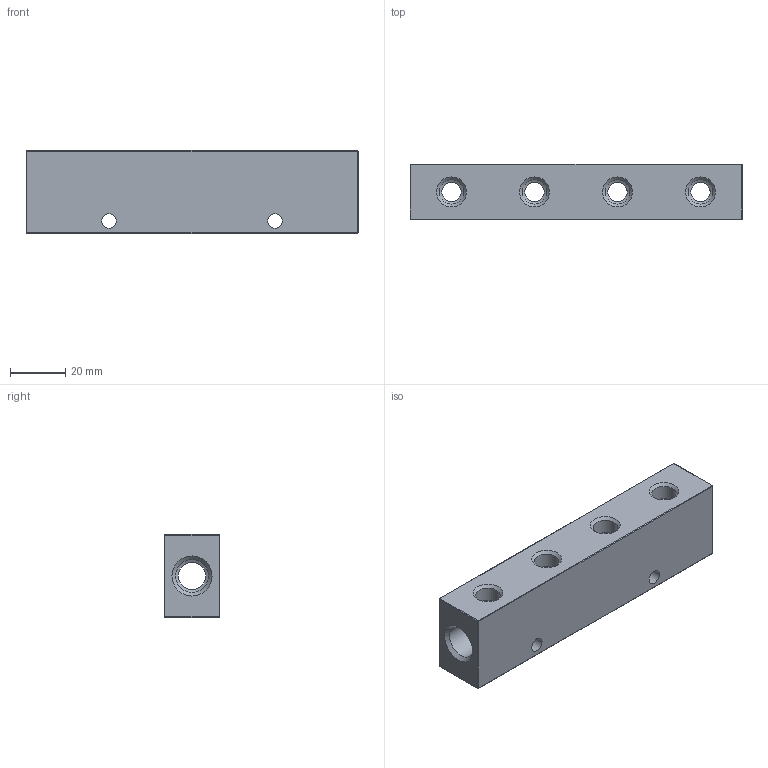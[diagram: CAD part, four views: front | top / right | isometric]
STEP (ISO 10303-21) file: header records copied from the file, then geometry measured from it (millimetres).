
FILE_DESCRIPTION(/* description */ (''),/* implementation_level */ '2;1');
FILE_NAME(/* name */ 'S:\_Tecnico\ArchivioUT\_Disegni3D ingombri\DISEGNI 3D per ingombri\RL\RL52141844.stp',/* time_stamp */ '2020-02-20T14:13:59+01:00',/* author */ ('UfficioTecnico'),/* organization */ (''),/* preprocessor_version */ 'ST-DEVELOPER v18',/* originating_system */ 'Autodesk Inventor 2020',/* authorisation */ '');
FILE_SCHEMA (('AUTOMOTIVE_DESIGN { 1 0 10303 214 3 1 1 }'));
Length unit declared in the file: millimetre
Products named in the file (1): RL51141804
Bounding box: 120 x 20 x 30 mm (x, y, z)
Volume: 56467.3 mm3; surface area: 18718.7 mm2
Topology: 1 solids, 1 shells, 67 faces, 169 edges, 104 vertices
Faces by surface type: cylinder 33, cone 20, sphere 8, plane 6
Full cylindrical faces by diameter (mm): 5.25 x2, 7 x8, 8.848 x8, 10 x1, 11.89 x2
Entity records: 2348 total; most frequent: CARTESIAN_POINT 613, DIRECTION 377, ORIENTED_EDGE 338, EDGE_CURVE 169, AXIS2_PLACEMENT_3D 156, VERTEX_POINT 104, EDGE_LOOP 89, CIRCLE 88
